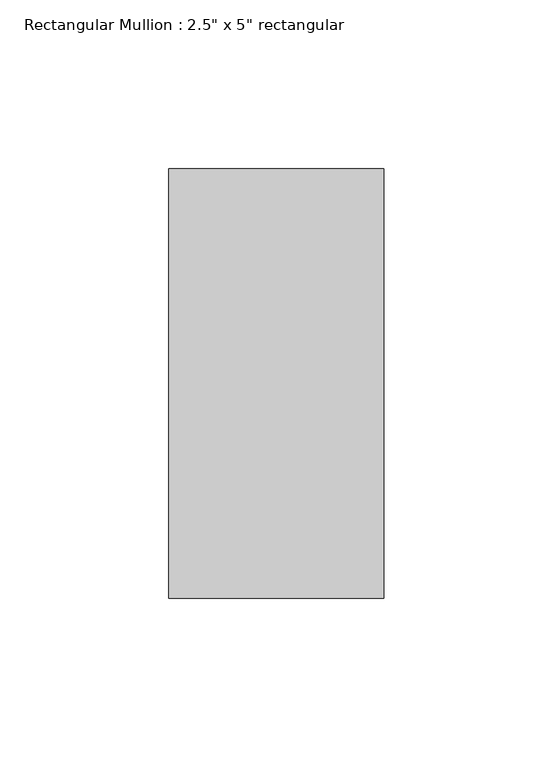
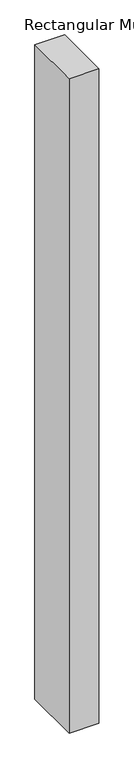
"""IFC4 building model written with IfcOpenShell, lengths in millimetres: member geometry."""

import ifcopenshell
import ifcopenshell.guid

model = None  # the IFC model being written
_history = None  # IfcOwnerHistory: only IFC2X3 demands one
_inside = {}  # id of a spatial element -> (the spatial element, [elements in it])
_under = {}  # id of a project, library or spatial element -> (it, [spatial elements below it])
_declared = {}  # id of a project -> (the project, [libraries it declares])
_typed = {}  # id of a type object -> (the type object, [elements of that type])
_made_of = {}  # id of a material, layer set ... -> (it, [elements and type objects made of it])


def new_model(schema):
    """Start an empty IFC model of exactly this schema.

    Asked for "IFC4X3", IfcOpenShell would pick the latest addendum, in which some entities
    have other attributes; the version numbers below select the first issue.
    IFC2X3 requires an IfcOwnerHistory on every rooted entity: one is made here for all.
    """
    global model, _history
    if schema == "IFC4X3":
        model = ifcopenshell.file(schema_version=(4, 3, 0, 0))
    else:
        model = ifcopenshell.file(schema=schema)
    _inside.clear()
    _under.clear()
    _declared.clear()
    _typed.clear()
    _made_of.clear()
    _history = None
    if model.schema == "IFC2X3":
        org = make("IfcOrganization", Name="unknown")
        user = make(
            "IfcPersonAndOrganization",
            ThePerson=make("IfcPerson", FamilyName="unknown"),
            TheOrganization=org,
        )
        app = make(
            "IfcApplication",
            ApplicationDeveloper=org,
            Version="unknown",
            ApplicationFullName="unknown",
            ApplicationIdentifier="unknown",
        )
        _history = make(
            "IfcOwnerHistory",
            OwningUser=user,
            OwningApplication=app,
            ChangeAction="ADDED",
            CreationDate=0,
        )
    return model


def make(cls, **values):
    """One entity of the class cls with the attributes given. An attribute that is None is left unset."""
    return model.create_entity(
        cls, **{name: value for name, value in values.items() if value is not None}
    )


def rooted(cls, **values):
    """An entity with a GlobalId (a new one), such as an element, a storey or a relation."""
    return make(cls, GlobalId=ifcopenshell.guid.new(), OwnerHistory=_history, **values)


def si_unit(unit_type, name, prefix=None):
    """IfcSIUnit, for example si_unit("LENGTHUNIT", "METRE", prefix="MILLI")."""
    return make("IfcSIUnit", UnitType=unit_type, Prefix=prefix, Name=name)


def assignment(units):
    """IfcUnitAssignment: the units of a project."""
    return None if units is None else make("IfcUnitAssignment", Units=units)


def point(xyz):
    """IfcCartesianPoint."""
    return None if xyz is None else make("IfcCartesianPoint", Coordinates=xyz)


def direction(xyz):
    """IfcDirection."""
    return None if xyz is None else make("IfcDirection", DirectionRatios=xyz)


def frame(location, z_axis=None, x_axis=None):
    """IfcAxis2Placement3D, a coordinate frame: its origin and axes. An axis left out is left unset."""
    return make(
        "IfcAxis2Placement3D",
        Location=point(location),
        Axis=direction(z_axis),
        RefDirection=direction(x_axis),
    )


def origin():
    """The frame at (0, 0, 0) with its axes left unset."""
    return frame((0.0, 0.0, 0.0))


def place(relative_to, where):
    """IfcLocalPlacement: puts the frame where relative to a parent placement (None: the world)."""
    return make(
        "IfcLocalPlacement", PlacementRelTo=relative_to, RelativePlacement=where
    )


def context(
    kind, dimensions, precision=None, world=None, true_north=None, identifier=None
):
    """IfcGeometricRepresentationContext, for example the 3D "Model" context."""
    return make(
        "IfcGeometricRepresentationContext",
        ContextIdentifier=identifier,
        ContextType=kind,
        CoordinateSpaceDimension=dimensions,
        Precision=precision,
        WorldCoordinateSystem=world,
        TrueNorth=true_north,
    )


def project(units=None, contexts=None):
    """IfcProject with its units and contexts."""
    return rooted(
        "IfcProject",
        Name="project",
        RepresentationContexts=contexts,
        UnitsInContext=assignment(units),
    )


def spatial(cls, under=None, at=None, **own):
    """A site, building, storey or space (cls), placed at a placement, below another one or the project."""
    s = rooted(cls, ObjectPlacement=at, **own)
    if under is not None:
        _under.setdefault(under.id(), (under, []))[1].append(s)
    return s


def polyline(points):
    """IfcPolyline through the points."""
    return make("IfcPolyline", Points=[point(p) for p in points])


def outline(outer, holes=None, kind="AREA"):
    """IfcArbitraryClosedProfileDef: a profile drawn as a closed curve; with holes, ...WithVoids."""
    if holes is None:
        return make("IfcArbitraryClosedProfileDef", ProfileType=kind, OuterCurve=outer)
    return make(
        "IfcArbitraryProfileDefWithVoids",
        ProfileType=kind,
        OuterCurve=outer,
        InnerCurves=holes,
    )


def extrude(swept, where, along, depth):
    """IfcExtrudedAreaSolid: the profile swept, set in the frame where, extruded along a direction by depth."""
    return make(
        "IfcExtrudedAreaSolid",
        SweptArea=swept,
        Position=where,
        ExtrudedDirection=direction(along),
        Depth=depth,
    )


def shape(context_of_items, identifier, shape_type, items):
    """IfcShapeRepresentation: the items that make up one representation, for example the "Body"."""
    return make(
        "IfcShapeRepresentation",
        ContextOfItems=context_of_items,
        RepresentationIdentifier=identifier,
        RepresentationType=shape_type,
        Items=items,
    )


def source(mapping_origin, context_of_items, identifier, shape_type, items):
    """IfcRepresentationMap: a shape defined once, which mapped items show again and again."""
    return make(
        "IfcRepresentationMap",
        MappingOrigin=mapping_origin,
        MappedRepresentation=shape(context_of_items, identifier, shape_type, items),
    )


def transform(
    local_origin,
    x_axis=None,
    y_axis=None,
    z_axis=None,
    scale=None,
    scale2=None,
    scale3=None,
    uniform=True,
):
    """IfcCartesianTransformationOperator3D, or its non-uniform kind. x_axis, y_axis, z_axis: its Axis1, 2, 3."""
    if uniform:
        return make(
            "IfcCartesianTransformationOperator3D",
            Axis1=direction(x_axis),
            Axis2=direction(y_axis),
            LocalOrigin=point(local_origin),
            Scale=scale,
            Axis3=direction(z_axis),
        )
    return make(
        "IfcCartesianTransformationOperator3DnonUniform",
        Axis1=direction(x_axis),
        Axis2=direction(y_axis),
        LocalOrigin=point(local_origin),
        Scale=scale,
        Axis3=direction(z_axis),
        Scale2=scale2,
        Scale3=scale3,
    )


def mapped(mapping_source, mapping_target):
    """IfcMappedItem: shows the shape of a source again, moved by a transform."""
    return make(
        "IfcMappedItem", MappingSource=mapping_source, MappingTarget=mapping_target
    )


def made_of(thing, what):
    """Note that an element or type object is made of a material, layer set ...; save() writes the relation."""
    if what is not None:
        _made_of.setdefault(what.id(), (what, []))[1].append(thing)
    return thing


def element(
    cls,
    number,
    at=None,
    inside=None,
    cuts=None,
    type_object=None,
    material=None,
    context=None,
    identifier="Body",
    shape_type=None,
    held_by="IfcProductDefinitionShape",
    body=None,
    shapes=None,
    **own,
):
    """One element of the class cls, such as IfcWall. Its Tag is "e" and its number.

    at: its placement. inside: the storey or other place that contains it. cuts: it is an
    opening in that element (IfcRelVoidsElement). A single representation is given by context,
    identifier, shape_type and body (its items); several are given by shapes. held_by: the class
    of the entity that holds the representations. save() writes the other relations.
    """
    e = rooted(cls, Tag="e%d" % number, ObjectPlacement=at, **own)
    if body is not None:
        shapes = [shape(context, identifier, shape_type, body)]
    if shapes is not None:
        e.Representation = make(held_by, Representations=shapes)
    if inside is not None:
        _inside.setdefault(inside.id(), (inside, []))[1].append(e)
    if cuts is not None:
        rooted(
            "IfcRelVoidsElement", RelatingBuildingElement=cuts, RelatedOpeningElement=e
        )
    if type_object is not None:
        _typed.setdefault(type_object.id(), (type_object, []))[1].append(e)
    return made_of(e, material)


def aggregate(whole, parts):
    """IfcRelAggregates: a whole, such as a stair, and the parts it consists of."""
    return rooted("IfcRelAggregates", RelatingObject=whole, RelatedObjects=parts)


def save(model, path):
    """Write the relations noted so far, then the file.

    IfcRelAggregates (storeys below a building ...), IfcRelContainedInSpatialStructure (elements
    in a storey), IfcRelDefinesByType, IfcRelAssociatesMaterial and IfcRelDeclares: one each for
    every whole, place, type object, material and project.
    """
    for whole, parts in _under.values():
        aggregate(whole, parts)
    for where, things in _inside.values():
        rooted(
            "IfcRelContainedInSpatialStructure",
            RelatedElements=things,
            RelatingStructure=where,
        )
    for kind, things in _typed.values():
        rooted("IfcRelDefinesByType", RelatedObjects=things, RelatingType=kind)
    for what, things in _made_of.values():
        rooted("IfcRelAssociatesMaterial", RelatedObjects=things, RelatingMaterial=what)
    for by, libraries in _declared.values():
        rooted("IfcRelDeclares", RelatingContext=by, RelatedDefinitions=libraries)
    model.write(path)


def member_11f2113b(model_context):
    return source(origin(), model_context, "Body", "SweptSolid", [
        extrude(outline(polyline([(0.0, 50.8), (0.0, -76.2), (-63.5, -76.2), (-63.5, 50.8), (0.0, 50.8)])), frame((0.0, 0.0, -1479.55), z_axis=(0.0, 0.0, 1.0), x_axis=(1.0, 0.0, 0.0)), (0.0, 0.0, 1.0), 1479.55),
    ])


if __name__ == "__main__":
    model = new_model("IFC4")
    model_context = context("Model", 3, world=origin())
    ifc_project = project(units=[si_unit("LENGTHUNIT", "METRE", prefix="MILLI")], contexts=[model_context])
    site = spatial("IfcSite", under=ifc_project)
    building = spatial("IfcBuilding", under=site)
    placement = place(None, origin())
    member_shape = member_11f2113b(model_context)
    element("IfcMember", 1, ObjectType="Rectangular Mullion : 2.5\" x 5\" rectangular", at=placement, inside=building, context=model_context, shape_type="MappedRepresentation", body=[
        mapped(member_shape, transform((0.0, 0.0, 0.0), x_axis=(1.0, 0.0, 0.0), y_axis=(0.0, 1.0, 0.0), z_axis=(0.0, 0.0, 1.0))),
    ])
    save(model, "model.ifc")
